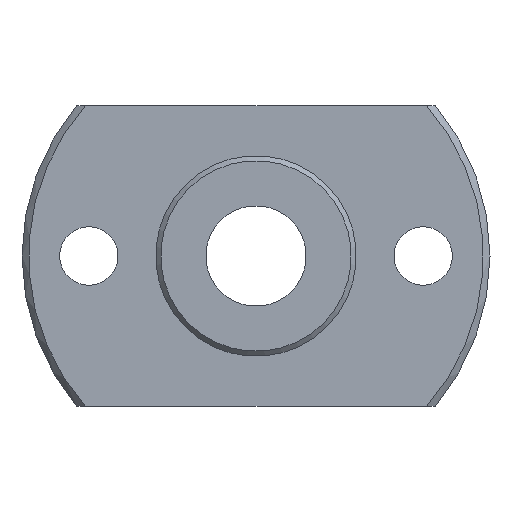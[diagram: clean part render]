
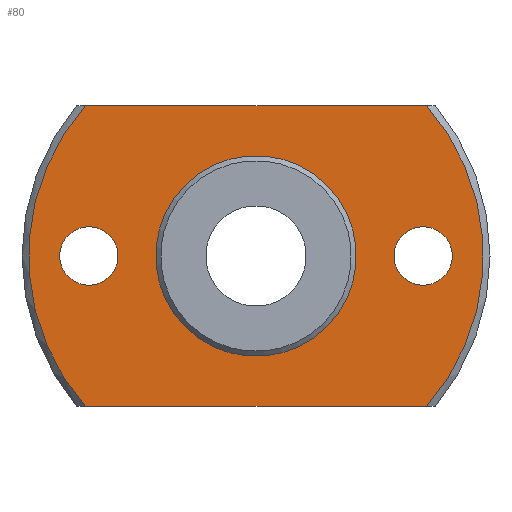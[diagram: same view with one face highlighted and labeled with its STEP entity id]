
A CAD part, left-side view. The second image highlights one B-rep face of the part: STEP entity #80.
In plain terms, the highlighted planar face has unit normal (-1, 0, 0).
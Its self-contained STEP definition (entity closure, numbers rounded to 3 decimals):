
#80=ADVANCED_FACE('',(#113,#114,#115,#116),#117,.T.);
#113=FACE_BOUND('',#190,.T.);
#114=FACE_BOUND('',#191,.T.);
#115=FACE_BOUND('',#192,.T.);
#116=FACE_OUTER_BOUND('',#193,.T.);
#117=PLANE('',#194);
#190=EDGE_LOOP('',(#296));
#191=EDGE_LOOP('',(#297));
#192=EDGE_LOOP('',(#298));
#193=EDGE_LOOP('',(#299,#300,#301,#302));
#194=AXIS2_PLACEMENT_3D('',#303,#304,#305);
#296=ORIENTED_EDGE('',*,*,#444,.T.);
#297=ORIENTED_EDGE('',*,*,#445,.T.);
#298=ORIENTED_EDGE('',*,*,#446,.T.);
#299=ORIENTED_EDGE('',*,*,#447,.F.);
#300=ORIENTED_EDGE('',*,*,#448,.T.);
#301=ORIENTED_EDGE('',*,*,#449,.F.);
#302=ORIENTED_EDGE('',*,*,#431,.T.);
#303=CARTESIAN_POINT('',(-5.0,6.841,6.841));
#304=DIRECTION('',(-1.0,0.0,0.));
#305=DIRECTION('',(0.,-0.707,0.707));
#431=EDGE_CURVE('',#481,#479,#482,.T.);
#444=EDGE_CURVE('',#502,#502,#503,.T.);
#445=EDGE_CURVE('',#504,#504,#505,.F.);
#446=EDGE_CURVE('',#506,#506,#507,.F.);
#447=EDGE_CURVE('',#508,#479,#509,.T.);
#448=EDGE_CURVE('',#508,#510,#511,.T.);
#449=EDGE_CURVE('',#481,#510,#512,.T.);
#479=VERTEX_POINT('',#567);
#481=VERTEX_POINT('',#572);
#482=LINE('',#573,#574);
#502=VERTEX_POINT('',#606);
#503=CIRCLE('',#607,5.75);
#504=VERTEX_POINT('',#608);
#505=CIRCLE('',#609,1.75);
#506=VERTEX_POINT('',#610);
#507=CIRCLE('',#611,1.75);
#508=VERTEX_POINT('',#612);
#509=CIRCLE('',#613,13.6);
#510=VERTEX_POINT('',#614);
#511=LINE('',#615,#616);
#512=CIRCLE('',#617,13.6);
#567=CARTESIAN_POINT('',(-5.0,10.196,9.0));
#572=CARTESIAN_POINT('',(-5.0,-10.196,9.0));
#573=CARTESIAN_POINT('',(-5.0,6.841,9.0));
#574=VECTOR('',#664,1.0);
#606=CARTESIAN_POINT('',(-5.0,4.066,4.066));
#607=AXIS2_PLACEMENT_3D('',#686,#687,#688);
#608=CARTESIAN_POINT('',(-5.0,-11.237,1.237));
#609=AXIS2_PLACEMENT_3D('',#689,#690,#691);
#610=CARTESIAN_POINT('',(-5.0,8.763,1.237));
#611=AXIS2_PLACEMENT_3D('',#692,#693,#694);
#612=CARTESIAN_POINT('',(-5.0,10.196,-9.0));
#613=AXIS2_PLACEMENT_3D('',#695,#696,#697);
#614=CARTESIAN_POINT('',(-5.0,-10.196,-9.0));
#615=CARTESIAN_POINT('',(-5.0,6.841,-9.0));
#616=VECTOR('',#698,1.0);
#617=AXIS2_PLACEMENT_3D('',#699,#700,#701);
#664=DIRECTION('',(0.0,1.0,0.0));
#686=CARTESIAN_POINT('',(-5.0,0.,0.));
#687=DIRECTION('',(1.0,0.0,0.));
#688=DIRECTION('',(0.,0.707,0.707));
#689=CARTESIAN_POINT('',(-5.0,-10.0,0.));
#690=DIRECTION('',(-1.0,0.0,0.));
#691=DIRECTION('',(0.,-0.707,0.707));
#692=CARTESIAN_POINT('',(-5.0,10.0,0.));
#693=DIRECTION('',(-1.0,0.0,0.));
#694=DIRECTION('',(0.,-0.707,0.707));
#695=CARTESIAN_POINT('',(-5.0,0.,0.));
#696=DIRECTION('',(1.0,0.0,0.));
#697=DIRECTION('',(0.,0.707,0.707));
#698=DIRECTION('',(0.0,-1.0,0.0));
#699=CARTESIAN_POINT('',(-5.0,0.,0.));
#700=DIRECTION('',(1.0,0.0,0.));
#701=DIRECTION('',(0.,0.707,0.707));
